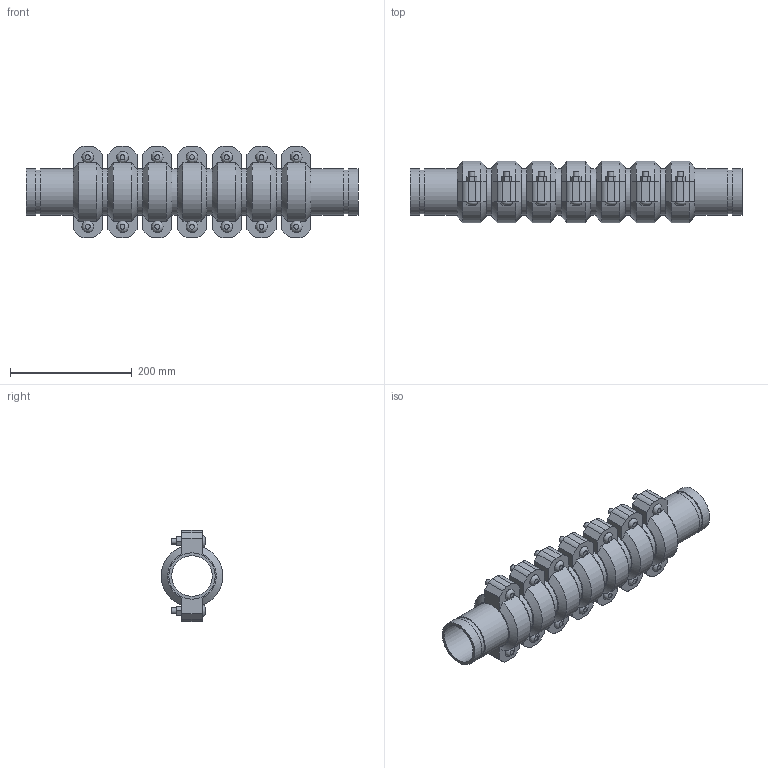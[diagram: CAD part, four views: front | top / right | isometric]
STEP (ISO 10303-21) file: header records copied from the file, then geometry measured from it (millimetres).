
FILE_DESCRIPTION(/* description */ ('VIC EXPANSION JOINT 7 COUPLINGS COMPRESSED STYLE 155 (OGS)','CAx-IF Rec.Pracs.---Representation and Presentation of Product Manufacturing Information (PMI)---4.0---2014-10-13'),/* implementation_level */ '2;1');
FILE_NAME(/* name */ 'C:\Users\kkamble\AppData\Roaming\Autodesk\ApplicationPlugins\Victaulic.Temp\A262\Victaulic_IPS_Expansion Joint_Compressed_7 Couplings_Style 155 (OGS)_02.5 (76.1) (65).stp',/* time_stamp */ '2021-06-27T00:33:50+02:00',/* author */ ('kkamble'),/* organization */ ('Victaulic'),/* preprocessor_version */ 'ST-DEVELOPER v17.2',/* originating_system */ 'Autodesk Inventor 2019',/* authorisation */ '');
FILE_SCHEMA (('AP242_MANAGED_MODEL_BASED_3D_ENGINEERING_MIM_LF { 1 0 10303 442 1 1 4 }'));
Length unit declared in the file: inch
Products named in the file (4): 155-02.5 (76.1); Nipple-02.5 (76.1); Nipple-02.5 (76.1)_1; 075-02.5 (76.1)
Assembly tree (15 placements, depth 2):
  155-02.5 (76.1)
    Nipple-02.5 (76.1)  x2
    Nipple-02.5 (76.1)_1  x6
    075-02.5 (76.1)  x7
Bounding box: 546.1 x 101.25 x 149.86 mm (x, y, z)
Volume: 2066275.1 mm3; surface area: 582953.3 mm2
Topology: 15 solids, 29 shells, 467 faces, 1157 edges, 808 vertices
Faces by surface type: plane 286, cylinder 139, cone 28, bspline 14
Full cylindrical faces by diameter (mm): 9.525 x28, 11.43 x14, 66.65 x8, 72.263 x16, 76.2 x31
Entity records: 2789 total; most frequent: CARTESIAN_POINT 517, DIRECTION 457, ORIENTED_EDGE 382, EDGE_CURVE 191, AXIS2_PLACEMENT_3D 182, VERTEX_POINT 136, EDGE_LOOP 99, LINE 93
